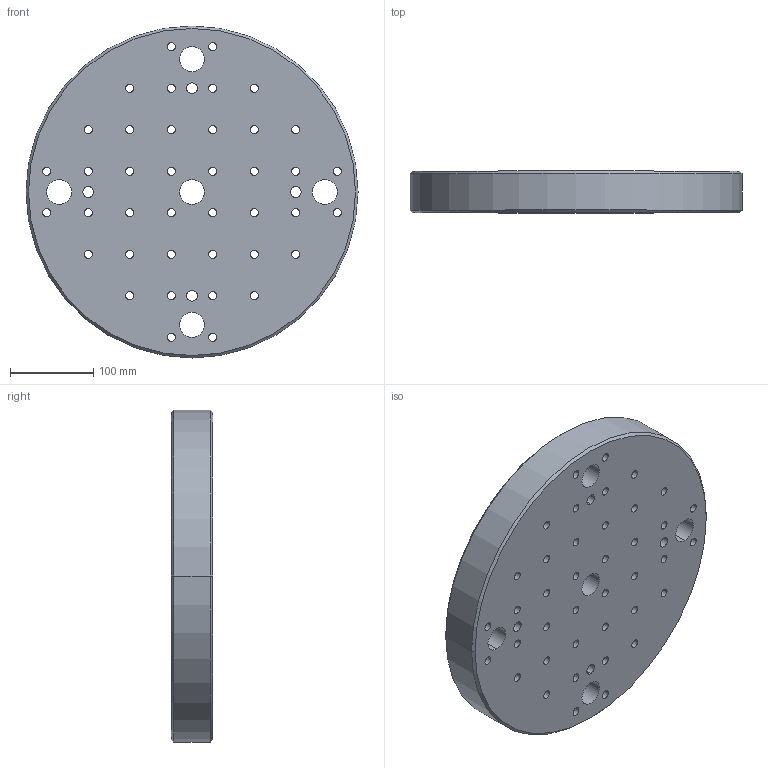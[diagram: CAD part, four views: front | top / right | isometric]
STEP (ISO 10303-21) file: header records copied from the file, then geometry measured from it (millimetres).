
FILE_DESCRIPTION((''),'2;1');
FILE_NAME('FG_WH_BASPL_RDGRDNP002','2026-05-19T10:53:18',('Admin'),(''),'CREO PARAMETRIC BY PTC INC, 2025010','CREO PARAMETRIC BY PTC INC, 2025010','');
FILE_SCHEMA(('CONFIG_CONTROL_DESIGN'));
Length unit declared in the file: millimetre
Products named in the file (1): FG_WH_BASPL_RDGRDNP002
Bounding box: 400 x 50 x 400 mm (x, y, z)
Volume: 5881084.1 mm3; surface area: 394790.9 mm2
Topology: 1 solids, 1 shells, 238 faces, 572 edges, 380 vertices
Faces by surface type: cylinder 188, plane 46, cone 4
Entity records: 7378 total; most frequent: DIRECTION 1428, CARTESIAN_POINT 1190, ORIENTED_EDGE 1144, AXIS2_PLACEMENT_3D 618, EDGE_CURVE 572, VERTEX_POINT 380, EDGE_LOOP 380, CIRCLE 380
